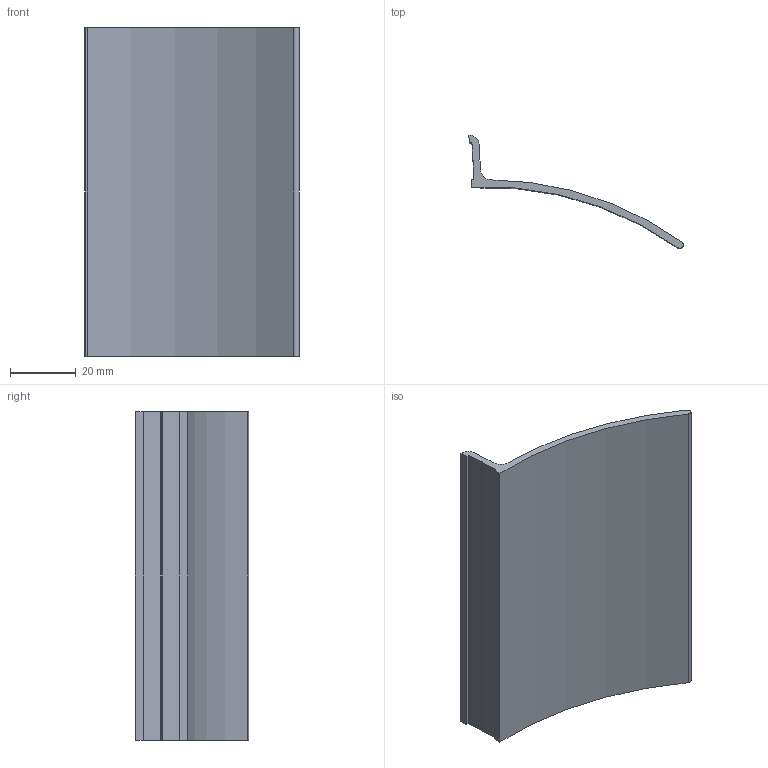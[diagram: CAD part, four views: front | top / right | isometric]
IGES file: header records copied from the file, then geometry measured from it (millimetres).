
Global section: file name: No Iges File Name specified; native system: Autodesk Inventor 2012; preprocessor: AutoDesk Inventor Iges Exporter R2012; author: anna.b; date: 20130830.130104; units: millimetre
Bounding box: 65.13 x 34.4 x 100 mm (x, y, z)
Volume: 17774.4 mm3; surface area: 17054.8 mm2
Topology: 1 solids, 1 shells, 22 faces, 60 edges, 40 vertices
Faces by surface type: plane 17, cylinder 3, revolution 2
